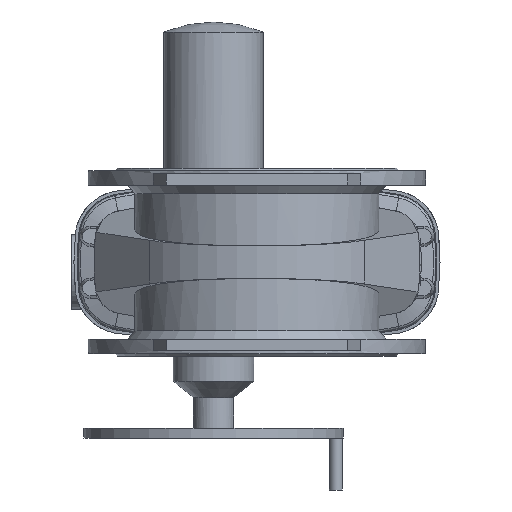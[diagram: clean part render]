
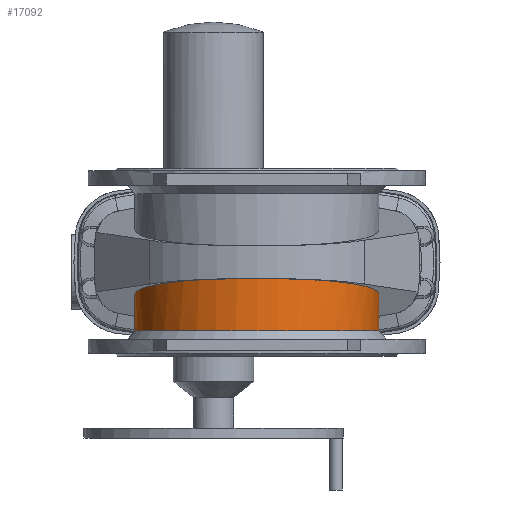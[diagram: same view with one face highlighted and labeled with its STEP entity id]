
A CAD part, front view. The second image highlights one B-rep face of the part: STEP entity #17092.
In plain terms, the highlighted cylindrical face has radius 188 mm (diameter 376 mm), a partial arc.
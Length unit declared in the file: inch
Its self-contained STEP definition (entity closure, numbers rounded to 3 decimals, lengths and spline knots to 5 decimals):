
#1160 = ORIENTED_EDGE ( 'NONE', *, *, #9819, .F. ) ;
#1161 = ORIENTED_EDGE ( 'NONE', *, *, #9702, .T. ) ;
#1162 = ORIENTED_EDGE ( 'NONE', *, *, #9703, .F. ) ;
#1163 = ORIENTED_EDGE ( 'NONE', *, *, #9818, .T. ) ;
#1164 = ORIENTED_EDGE ( 'NONE', *, *, #10961, .F. ) ;
#2061 = CARTESIAN_POINT ( 'NONE',  ( -0.31496, 7.39487, -3.08866 ) ) ;
#2063 = CARTESIAN_POINT ( 'NONE',  ( 0.31496, 7.39487, -3.08866 ) ) ;
#2064 = CARTESIAN_POINT ( 'NONE',  ( 0.31496, 7.39487, -4.14924 ) ) ;
#2787 = DIRECTION ( 'NONE',  ( -1., 0., 0. ) ) ;
#2791 = DIRECTION ( 'NONE',  ( 0., 0., 1. ) ) ;
#2792 = CARTESIAN_POINT ( 'NONE',  ( 0., 0., -39.37008 ) ) ;
#3100 = AXIS2_PLACEMENT_3D ( 'NONE', #2792, #2791, #2787 ) ;
#6500 = CARTESIAN_POINT ( 'NONE',  ( -0.31496, 7.39487, -4.14924 ) ) ;
#6528 = CARTESIAN_POINT ( 'NONE',  ( 0., -7.40157, -1.01471 ) ) ;
#7378 = CARTESIAN_POINT ( 'NONE',  ( 0.31496, 7.39487, -39.37008 ) ) ;
#7389 = DIRECTION ( 'NONE',  ( 0., 0., 1. ) ) ;
#7390 = CARTESIAN_POINT ( 'NONE',  ( 14.19559, -7.40157, -0.76449 ) ) ;
#7391 = CARTESIAN_POINT ( 'NONE',  ( 0., -7.40157, -1.01471 ) ) ;
#7394 = CARTESIAN_POINT ( 'NONE',  ( 14.49769, 6.7908, -2.75377 ) ) ;
#7395 = CARTESIAN_POINT ( 'NONE',  ( 0.31496, 7.39487, -3.08866 ) ) ;
#8450 = CARTESIAN_POINT ( 'NONE',  ( -0.31496, 7.39487, -39.37008 ) ) ;
#8451 = DIRECTION ( 'NONE',  ( 0., 0., 1. ) ) ;
#9265 = VERTEX_POINT ( 'NONE', #6500 ) ;
#9293 = VERTEX_POINT ( 'NONE', #6528 ) ;
#9702 = EDGE_CURVE ( 'NONE', #13102, #13101, #12574, .T. ) ;
#9703 = EDGE_CURVE ( 'NONE', #9293, #13101, #9901, .T. ) ;
#9818 = EDGE_CURVE ( 'NONE', #9293, #13099, #9937, .T. ) ;
#9819 = EDGE_CURVE ( 'NONE', #13102, #9265, #16439, .T. ) ;
#9901 =( BOUNDED_CURVE ( )  B_SPLINE_CURVE ( 3, ( #7391, #7390, #7394, #7395 ),
 .UNSPECIFIED., .F., .F. ) 
 B_SPLINE_CURVE_WITH_KNOTS ( ( 4, 4 ),
 ( 6.15842, 9.25744 ),
 .UNSPECIFIED. ) 
 CURVE ( )  GEOMETRIC_REPRESENTATION_ITEM ( )  RATIONAL_B_SPLINE_CURVE ( ( 1., 0.348, 0.348, 1. ) ) 
 REPRESENTATION_ITEM ( '' )  );
#9937 =( BOUNDED_CURVE ( )  B_SPLINE_CURVE ( 3, ( #11257, #11259, #11267, #11268 ),
 .UNSPECIFIED., .F., .F. ) 
 B_SPLINE_CURVE_WITH_KNOTS ( ( 4, 4 ),
 ( 6.15842, 9.25744 ),
 .UNSPECIFIED. ) 
 CURVE ( )  GEOMETRIC_REPRESENTATION_ITEM ( )  RATIONAL_B_SPLINE_CURVE ( ( 1., 0.348, 0.348, 1. ) ) 
 REPRESENTATION_ITEM ( '' )  );
#10961 = EDGE_CURVE ( 'NONE', #9265, #13099, #16617, .T. ) ;
#11257 = CARTESIAN_POINT ( 'NONE',  ( 0., -7.40157, -1.01471 ) ) ;
#11259 = CARTESIAN_POINT ( 'NONE',  ( -14.19559, -7.40157, -0.76449 ) ) ;
#11267 = CARTESIAN_POINT ( 'NONE',  ( -14.49769, 6.7908, -2.75377 ) ) ;
#11268 = CARTESIAN_POINT ( 'NONE',  ( -0.31496, 7.39487, -3.08866 ) ) ;
#11277 = CARTESIAN_POINT ( 'NONE',  ( 0., 0., -4.14924 ) ) ;
#11278 = DIRECTION ( 'NONE',  ( 0., 0., -1. ) ) ;
#11279 = DIRECTION ( 'NONE',  ( -1., 0., 0. ) ) ;
#12574 = LINE ( 'NONE', #7378, #12575 ) ;
#12575 = VECTOR ( 'NONE', #7389, 39.37008 ) ;
#12905 = AXIS2_PLACEMENT_3D ( 'NONE', #11277, #11278, #11279 ) ;
#13099 = VERTEX_POINT ( 'NONE', #2061 ) ;
#13101 = VERTEX_POINT ( 'NONE', #2063 ) ;
#13102 = VERTEX_POINT ( 'NONE', #2064 ) ;
#14317 = EDGE_LOOP ( 'NONE', ( #1160, #1161, #1162, #1163, #1164 ) ) ;
#16439 = CIRCLE ( 'NONE', #12905, 7.40157 ) ;
#16617 = LINE ( 'NONE', #8450, #16620 ) ;
#16620 = VECTOR ( 'NONE', #8451, 39.37008 ) ;
#16855 = FACE_OUTER_BOUND ( 'NONE', #14317, .T. ) ;
#16860 = CYLINDRICAL_SURFACE ( 'NONE', #3100, 7.40157 ) ;
#17092 = ADVANCED_FACE ( 'NONE', ( #16855 ), #16860, .T. ) ;
